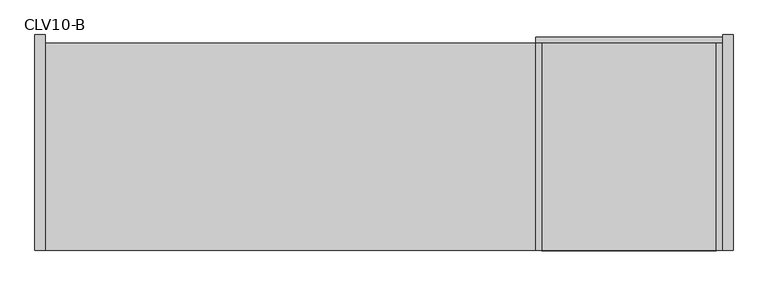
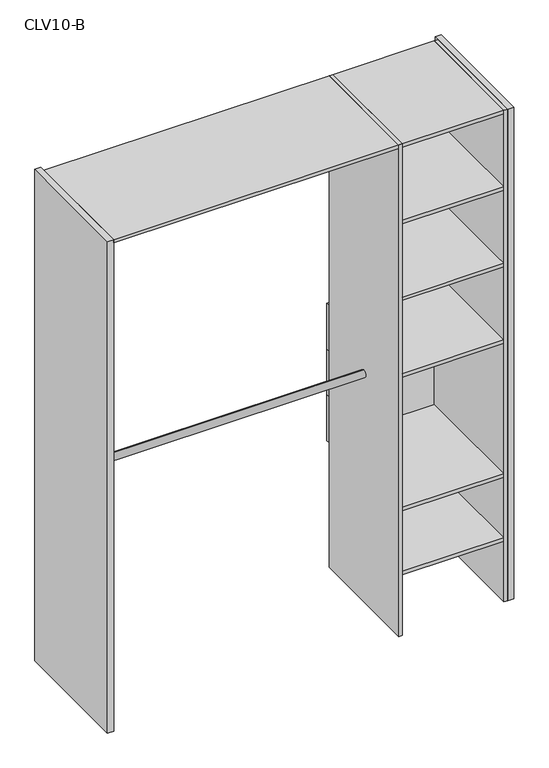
"""IFC4 building model written with IfcOpenShell, lengths in millimetres: furniture geometry, Closet 1estantes-1tubos_2 laterales : CLV10-B."""

from ifc_helpers import new_model, si_unit, point, frame, frame_2d, origin, origin_with_axes, place, context, project, spatial, polyline, circle_curve, trimmed, segment, composite_curve, outline, extrude, source, transform, mapped, element, save


def clv10_b_792d6fcd(model_context):
    return source(origin(), model_context, "Body", "SweptSolid", [
        extrude(outline(polyline([(-1405.3153003, -80.0), (-1405.3153003, -600.0), (-1430.3153003, -600.0), (-1430.3153003, -80.0), (-1405.3153003, -80.0)])), origin_with_axes(), (0.0, 0.0, 1.0), 2150.0),
        extrude(outline(polyline([(250.0, -80.0), (250.0, -600.0), (225.0, -600.0), (225.0, -80.0), (250.0, -80.0)])), origin_with_axes(), (0.0, 0.0, 1.0), 2150.0),
        extrude(outline(polyline([(225.0, -100.0), (225.0, -600.0), (210.0, -600.0), (210.0, -100.0), (225.0, -100.0)])), origin_with_axes(), (0.0, 0.0, 1.0), 2150.0),
        extrude(outline(polyline([(-210.0, -100.0), (-210.0, -600.0), (-225.0, -600.0), (-225.0, -100.0), (-210.0, -100.0)])), origin_with_axes(), (0.0, 0.0, 1.0), 2150.0),
        extrude(outline(polyline([(225.0, -100.0), (-225.0, -100.0), (-225.0, -85.0), (225.0, -85.0), (225.0, -100.0)])), frame((0.0, 0.0, 945.0), z_axis=(0.0, 0.0, 1.0), x_axis=(1.0, 0.0, 0.0)), (0.0, 0.0, 1.0), 200.0),
        extrude(outline(polyline([(225.0, -100.0), (-225.0, -100.0), (-225.0, -85.0), (225.0, -85.0), (225.0, -100.0)])), frame((0.0, 0.0, 745.0), z_axis=(0.0, 0.0, 1.0), x_axis=(1.0, 0.0, 0.0)), (0.0, 0.0, 1.0), 200.0),
        extrude(outline(polyline([(225.0, -100.0), (-225.0, -100.0), (-225.0, -85.0), (225.0, -85.0), (225.0, -100.0)])), frame((0.0, 0.0, 545.0), z_axis=(0.0, 0.0, 1.0), x_axis=(1.0, 0.0, 0.0)), (0.0, 0.0, 1.0), 200.0),
        extrude(outline(polyline([(210.0, -100.0), (210.0, -600.0), (-210.0, -600.0), (-210.0, -100.0), (210.0, -100.0)])), frame((0.0, 0.0, 1130.0), z_axis=(0.0, 0.0, 1.0), x_axis=(1.0, 0.0, 0.0)), (0.0, 0.0, 1.0), 15.0),
        extrude(outline(composite_curve([segment(trimmed(circle_curve(frame_2d((-350.0, 1000.0)), 15.0), [point((-350.0, 1015.0))], [point((-350.0, 985.0))], False, "CARTESIAN"), True, "CONTINUOUS"), segment(trimmed(circle_curve(frame_2d((-350.0, 1000.0)), 15.0), [point((-350.0, 985.0))], [point((-350.0, 1015.0))], False, "CARTESIAN"), True, "CONTINUOUS")], self_intersect=False)), frame((-1405.3153003, 0.0, 0.0), z_axis=(1.0, 0.0, 0.0), x_axis=(0.0, 1.0, 0.0)), (0.0, 0.0, 1.0), 1180.3153003),
        extrude(outline(composite_curve([segment(trimmed(circle_curve(frame_2d((-350.0, 2000.0)), 15.0), [point((-350.0, 2015.0))], [point((-350.0, 1985.0))], False, "CARTESIAN"), True, "CONTINUOUS"), segment(trimmed(circle_curve(frame_2d((-350.0, 2000.0)), 15.0), [point((-350.0, 1985.0))], [point((-350.0, 2015.0))], False, "CARTESIAN"), True, "CONTINUOUS")], self_intersect=False)), frame((-1405.3153003, 0.0, 0.0), z_axis=(1.0, 0.0, 0.0), x_axis=(0.0, 1.0, 0.0)), (0.0, 0.0, 1.0), 1180.3153003),
        extrude(outline(polyline([(210.0, -100.0), (210.0, -600.0), (-210.0, -600.0), (-210.0, -100.0), (210.0, -100.0)])), frame((0.0, 0.0, 265.0), z_axis=(0.0, 0.0, 1.0), x_axis=(1.0, 0.0, 0.0)), (0.0, 0.0, 1.0), 15.0),
        extrude(outline(polyline([(210.0, -100.0), (210.0, -600.0), (-210.0, -600.0), (-210.0, -100.0), (210.0, -100.0)])), frame((0.0, 0.0, 545.0), z_axis=(0.0, 0.0, 1.0), x_axis=(1.0, 0.0, 0.0)), (0.0, 0.0, 1.0), 15.0),
        extrude(outline(polyline([(210.0, -100.0), (210.0, -600.0), (-210.0, -600.0), (-210.0, -100.0), (210.0, -100.0)])), frame((0.0, 0.0, 1465.0), z_axis=(0.0, 0.0, 1.0), x_axis=(1.0, 0.0, 0.0)), (0.0, 0.0, 1.0), 15.0),
        extrude(outline(polyline([(210.0, -100.0), (210.0, -600.0), (-210.0, -600.0), (-210.0, -100.0), (210.0, -100.0)])), frame((0.0, 0.0, 1800.0), z_axis=(0.0, 0.0, 1.0), x_axis=(1.0, 0.0, 0.0)), (0.0, 0.0, 1.0), 15.0),
        extrude(outline(polyline([(-210.0, -100.0), (-210.0, -600.0), (-1405.3153003, -600.0), (-1405.3153003, -100.0), (-210.0, -100.0)])), frame((0.0, 0.0, 2135.0), z_axis=(0.0, 0.0, 1.0), x_axis=(1.0, 0.0, 0.0)), (0.0, 0.0, 1.0), 15.0),
        extrude(outline(polyline([(210.0, -100.0), (210.0, -600.0), (-210.0, -600.0), (-210.0, -100.0), (210.0, -100.0)])), frame((0.0, 0.0, 2135.0), z_axis=(0.0, 0.0, 1.0), x_axis=(1.0, 0.0, 0.0)), (0.0, 0.0, 1.0), 15.0),
    ])


if __name__ == "__main__":
    model = new_model("IFC4")
    model_context = context("Model", 3, world=origin())
    ifc_project = project(units=[si_unit("LENGTHUNIT", "METRE", prefix="MILLI")], contexts=[model_context])
    site = spatial("IfcSite", under=ifc_project)
    building = spatial("IfcBuilding", under=site)
    placement = place(None, origin())
    clv10_b_shape = clv10_b_792d6fcd(model_context)
    element("IfcFurniture", 1, ObjectType="Closet 1estantes-1tubos_2 laterales : CLV10-B", at=placement, inside=building, context=model_context, shape_type="MappedRepresentation", body=[
        mapped(clv10_b_shape, transform((0.0, 0.0, 0.0), x_axis=(1.0, 0.0, 0.0), y_axis=(0.0, 1.0, 0.0), z_axis=(0.0, 0.0, 1.0))),
    ])
    save(model, "model.ifc")
